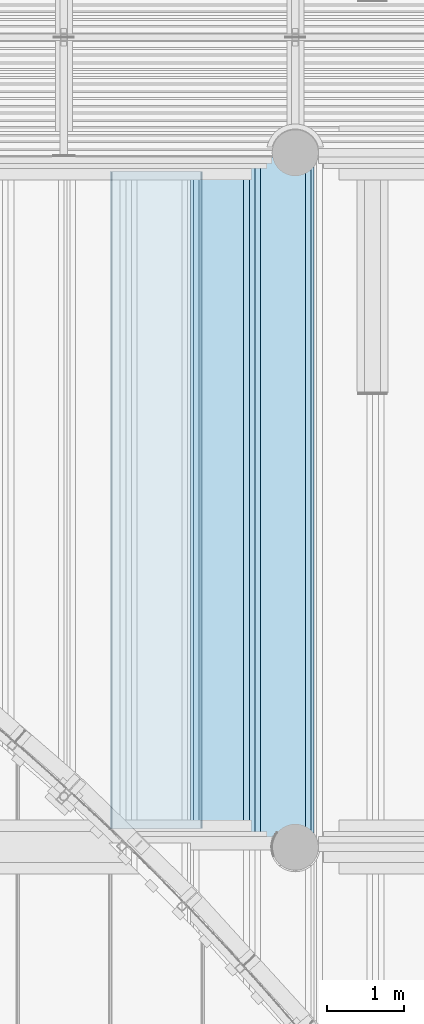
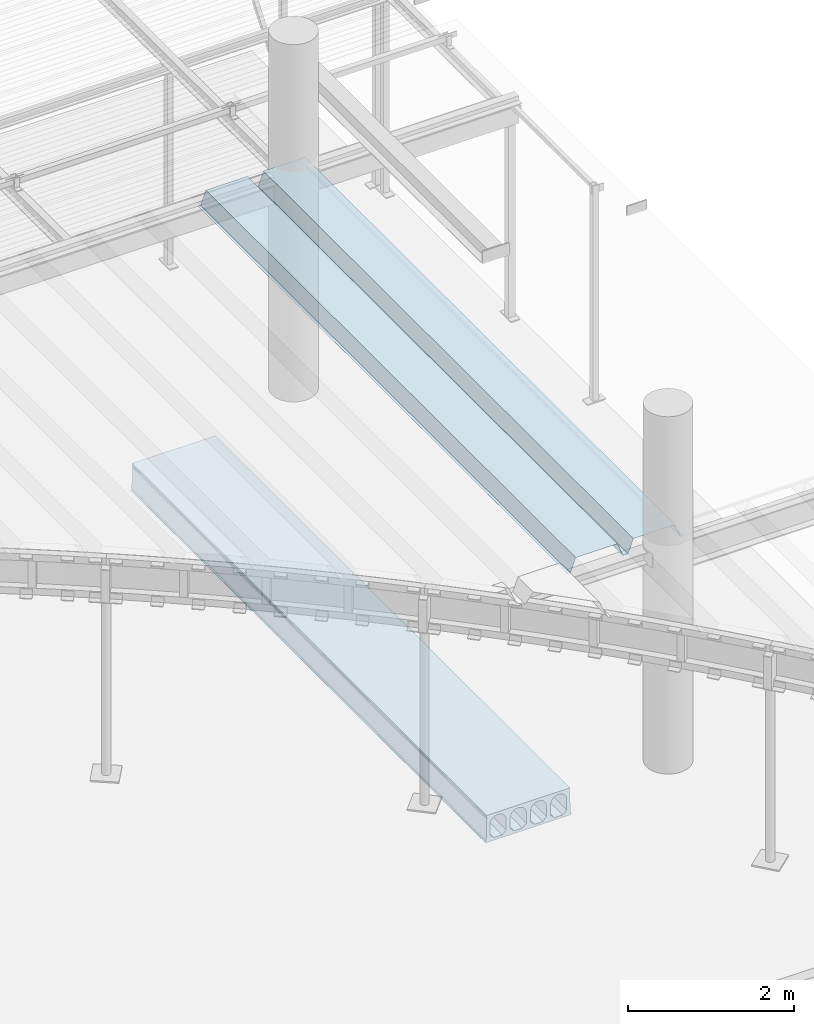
# One storey, part 66 of 98: 2 slabs.
"""IFC2X3 building model written with IfcOpenShell, lengths in millimetres."""

from ifc_helpers import new_model, entity, si_unit, converted_unit, derived_unit, direction, frame, origin_with_axes, place, context, subcontext, project, spatial, faceted_brep, material, type_object, element, save


model = new_model("IFC2X3")

# Units and contexts
model_context = context("Model", 3, precision=0.01, world=frame((0.0, 4.29681676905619e-09, 0.0)), true_north=direction((4.01073788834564e-13, 1.0)))
plan_context = context("Plan", 3, precision=0.01, world=frame((0.0, 4.29681676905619e-09, 0.0)), true_north=direction((4.01073788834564e-13, 1.0)))
body_context = subcontext(model_context, "Body", "Model", "MODEL_VIEW")
ifc_project = project(units=[converted_unit("PLANEANGLEUNIT", "DEGREE", entity("IfcPositiveLengthMeasure", 0.0174532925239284), si_unit("PLANEANGLEUNIT", "RADIAN"), dimensions=[0, 0, 0, 0, 0, 0, 0]), si_unit("AREAUNIT", "SQUARE_METRE"), si_unit("LENGTHUNIT", "METRE", prefix="MILLI"), si_unit("MASSUNIT", "GRAM", prefix="KILO"), si_unit("POWERUNIT", "WATT"), si_unit("PRESSUREUNIT", "PASCAL"), si_unit("FORCEUNIT", "NEWTON", prefix="KILO"), si_unit("ELECTRICCURRENTUNIT", "AMPERE"), si_unit("THERMODYNAMICTEMPERATUREUNIT", "DEGREE_CELSIUS"), si_unit("TIMEUNIT", "SECOND"), si_unit("VOLUMEUNIT", "CUBIC_METRE"), derived_unit("LINEARVELOCITYUNIT", [(si_unit("LENGTHUNIT", "METRE"), 1), (si_unit("TIMEUNIT", "SECOND"), -1)]), derived_unit("VOLUMETRICFLOWRATEUNIT", [(si_unit("VOLUMEUNIT", "CUBIC_METRE"), 1), (si_unit("TIMEUNIT", "SECOND"), -1)]), derived_unit("THERMALTRANSMITTANCEUNIT", [(si_unit("POWERUNIT", "WATT"), 1), (si_unit("THERMODYNAMICTEMPERATUREUNIT", "KELVIN"), -1), (si_unit("AREAUNIT", "SQUARE_METRE"), -1)])], contexts=[model_context, plan_context])

# Site, building, storey
site_placement = place(None, frame((0.0, -4.29681676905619e-09, 0.0), z_axis=(0.0, 0.0, 1.0), x_axis=(1.0, 0.0, 0.0)))
site = spatial("IfcSite", under=ifc_project, at=site_placement, Name="Gardermoen", CompositionType="ELEMENT")
building_placement = place(site_placement, frame((0.0, 4.29681676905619e-09, 0.0), z_axis=(0.0, 0.0, 1.0), x_axis=(1.0, 0.0, 0.0)))
building = spatial("IfcBuilding", under=site, at=building_placement, Name="TS", CompositionType="ELEMENT")
storey_placement = place(building_placement, origin_with_axes())
storey = spatial("IfcBuildingStorey", under=building, at=storey_placement, Name="D", CompositionType="ELEMENT", Elevation=0.0)

# Slabs
ifc_material_1 = material(Name="CONCRETE/C45/55")
slab_type_1 = type_object("IfcSlabType", Name="HD400", PredefinedType="NOTDEFINED")
slab_1_placement = place(storey_placement, frame((527199.999766, 405739.995625, 203600.0), z_axis=(0.0, 0.0, 1.0), x_axis=(0.0, 1.0, 0.0)))
element("IfcSlab", 1, at=slab_1_placement, inside=storey, type_object=slab_type_1, material=ifc_material_1, Name="HULLDEKKE", ObjectType="HD400", PredefinedType="FLOOR", context=body_context, shape_type="Brep", body=[
    faceted_brep([(0.0, 600.0, -190.0), (0.0, 600.0, -180.0), (8520.00875000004, 600.0, -180.0), (8520.00875000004, 600.0, -190.0), (0.0, 585.0, -170.0), (8520.00875000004, 585.0, -170.0), (0.0, 577.5, 145.0), (8520.00875000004, 577.5, 145.0), (0.0, 570.0, 160.0), (8520.00875000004, 570.0, 160.0), (0.0, 577.5, 175.0), (8520.00875000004, 577.5, 175.0), (0.0, 577.5, 200.0), (8520.00875000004, 577.5, 200.0), (0.0, -577.5, 200.0), (8520.00875000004, -577.5, 200.0), (0.0, -577.5, 175.0), (8520.00875000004, -577.5, 175.0), (0.0, -570.0, 160.0), (8520.00875000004, -570.0, 160.0), (0.0, -577.5, 145.0), (8520.00875000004, -577.5, 145.0), (0.0, -585.0, -170.0), (8520.00875000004, -585.0, -170.0), (0.0, -600.0, -180.0), (8520.00875000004, -600.0, -180.0), (0.0, -600.0, -190.0), (8520.00875000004, -600.0, -190.0), (0.0, -583.380004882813, -200.0), (8520.00875000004, -583.380004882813, -200.0), (0.0, 583.380004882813, -200.0), (8520.00875000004, 583.380004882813, -200.0), (0.0, -362.5, -160.0), (0.0, -477.5, -160.0), (8520.00875000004, -477.5, -160.0), (8520.00875000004, -362.5, -160.0), (0.0, -532.5, -105.0), (8520.00875000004, -532.5, -105.0), (0.0, -532.5, 47.5), (8520.00875000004, -532.5, 47.5), (0.0, -532.115755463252, 56.7901763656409), (8520.00875000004, -532.115755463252, 56.7901763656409), (0.0, -530.965646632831, 66.0168914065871), (8520.00875000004, -530.965646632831, 66.0168914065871), (0.0, -529.057529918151, 75.1171173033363), (8520.00875000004, -529.057529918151, 75.1171173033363), (0.0, -526.404439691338, 84.028690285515), (8520.00875000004, -526.404439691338, 84.028690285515), (0.0, -523.024499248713, 92.6907352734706), (8520.00875000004, -523.024499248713, 92.6907352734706), (0.0, -518.940797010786, 101.044081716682), (8520.00875000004, -518.940797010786, 101.044081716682), (0.0, -514.181228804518, 109.031667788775), (8520.00875000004, -514.181228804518, 109.031667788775), (0.0, -508.778307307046, 116.598930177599), (8520.00875000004, -508.778307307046, 116.598930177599), (0.0, -502.768939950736, 123.694176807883), (8520.00875000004, -502.768939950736, 123.694176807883), (0.0, -496.194176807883, 130.268939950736), (8520.00875000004, -496.194176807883, 130.268939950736), (0.0, -489.098930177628, 136.278307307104), (8520.00875000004, -489.098930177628, 136.278307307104), (0.0, -481.531667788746, 141.681228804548), (8520.00875000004, -481.531667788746, 141.681228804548), (0.0, -473.544081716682, 146.440797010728), (8520.00875000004, -473.544081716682, 146.440797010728), (0.0, -465.190735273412, 150.524499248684), (8520.00875000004, -465.190735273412, 150.524499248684), (0.0, -456.528690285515, 153.904439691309), (8520.00875000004, -456.528690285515, 153.904439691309), (0.0, -447.617117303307, 156.55752991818), (8520.00875000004, -447.617117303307, 156.55752991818), (0.0, -438.516891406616, 158.465646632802), (8520.00875000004, -438.516891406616, 158.465646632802), (0.0, -429.290176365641, 159.615755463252), (8520.00875000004, -429.290176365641, 159.615755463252), (0.0, -420.0, 160.0), (8520.00875000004, -420.0, 160.0), (0.0, -410.709823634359, 159.615755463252), (8520.00875000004, -410.709823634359, 159.615755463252), (0.0, -401.483108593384, 158.465646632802), (8520.00875000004, -401.483108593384, 158.465646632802), (0.0, -392.382882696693, 156.55752991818), (8520.00875000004, -392.382882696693, 156.55752991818), (0.0, -383.471309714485, 153.904439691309), (8520.00875000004, -383.471309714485, 153.904439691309), (0.0, -374.809264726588, 150.524499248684), (8520.00875000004, -374.809264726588, 150.524499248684), (0.0, -366.455918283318, 146.440797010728), (8520.00875000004, -366.455918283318, 146.440797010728), (0.0, -358.468332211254, 141.681228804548), (8520.00875000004, -358.468332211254, 141.681228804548), (0.0, -350.901069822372, 136.278307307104), (8520.00875000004, -350.901069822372, 136.278307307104), (0.0, -343.805823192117, 130.268939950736), (8520.00875000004, -343.805823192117, 130.268939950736), (0.0, -337.231060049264, 123.694176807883), (8520.00875000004, -337.231060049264, 123.694176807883), (0.0, -331.221692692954, 116.598930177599), (8520.00875000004, -331.221692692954, 116.598930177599), (0.0, -325.818771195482, 109.031667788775), (8520.00875000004, -325.818771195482, 109.031667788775), (0.0, -321.059202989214, 101.044081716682), (8520.00875000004, -321.059202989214, 101.044081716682), (0.0, -316.975500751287, 92.6907352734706), (8520.00875000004, -316.975500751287, 92.6907352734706), (0.0, -313.595560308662, 84.028690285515), (8520.00875000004, -313.595560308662, 84.028690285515), (0.0, -310.942470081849, 75.1171173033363), (8520.00875000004, -310.942470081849, 75.1171173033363), (0.0, -309.034353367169, 66.0168914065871), (8520.00875000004, -309.034353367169, 66.0168914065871), (0.0, -307.884244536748, 56.7901763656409), (8520.00875000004, -307.884244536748, 56.7901763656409), (0.0, -307.5, 47.5), (8520.00875000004, -307.5, 47.5), (0.0, -307.5, -105.0), (8520.00875000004, -307.5, -105.0), (0.0, -82.5, -160.0), (0.0, -197.5, -160.0), (8520.00875000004, -197.5, -160.0), (8520.00875000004, -82.5, -160.0), (0.0, -252.5, -105.0), (8520.00875000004, -252.5, -105.0), (0.0, -252.5, 47.5), (8520.00875000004, -252.5, 47.5), (0.0, -252.115755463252, 56.7901763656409), (8520.00875000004, -252.115755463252, 56.7901763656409), (0.0, -250.965646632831, 66.0168914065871), (8520.00875000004, -250.965646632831, 66.0168914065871), (0.0, -249.057529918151, 75.1171173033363), (8520.00875000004, -249.057529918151, 75.1171173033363), (0.0, -246.404439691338, 84.028690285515), (8520.00875000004, -246.404439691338, 84.028690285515), (0.0, -243.024499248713, 92.6907352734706), (8520.00875000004, -243.024499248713, 92.6907352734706), (0.0, -238.940797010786, 101.044081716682), (8520.00875000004, -238.940797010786, 101.044081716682), (0.0, -234.181228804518, 109.031667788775), (8520.00875000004, -234.181228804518, 109.031667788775), (0.0, -228.778307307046, 116.598930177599), (8520.00875000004, -228.778307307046, 116.598930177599), (0.0, -222.768939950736, 123.694176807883), (8520.00875000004, -222.768939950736, 123.694176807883), (0.0, -216.194176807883, 130.268939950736), (8520.00875000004, -216.194176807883, 130.268939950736), (0.0, -209.098930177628, 136.278307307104), (8520.00875000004, -209.098930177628, 136.278307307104), (0.0, -201.531667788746, 141.681228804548), (8520.00875000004, -201.531667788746, 141.681228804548), (0.0, -193.544081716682, 146.440797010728), (8520.00875000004, -193.544081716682, 146.440797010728), (0.0, -185.190735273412, 150.524499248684), (8520.00875000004, -185.190735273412, 150.524499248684), (0.0, -176.528690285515, 153.904439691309), (8520.00875000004, -176.528690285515, 153.904439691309), (0.0, -167.617117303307, 156.55752991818), (8520.00875000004, -167.617117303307, 156.55752991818), (0.0, -158.516891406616, 158.465646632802), (8520.00875000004, -158.516891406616, 158.465646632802), (0.0, -149.290176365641, 159.615755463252), (8520.00875000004, -149.290176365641, 159.615755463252), (0.0, -140.0, 160.0), (8520.00875000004, -140.0, 160.0), (0.0, -130.709823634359, 159.615755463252), (8520.00875000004, -130.709823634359, 159.615755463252), (0.0, -121.483108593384, 158.465646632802), (8520.00875000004, -121.483108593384, 158.465646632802), (0.0, -112.382882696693, 156.55752991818), (8520.00875000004, -112.382882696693, 156.55752991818), (0.0, -103.471309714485, 153.904439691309), (8520.00875000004, -103.471309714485, 153.904439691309), (0.0, -94.8092647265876, 150.524499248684), (8520.00875000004, -94.8092647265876, 150.524499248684), (0.0, -86.4559182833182, 146.440797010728), (8520.00875000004, -86.4559182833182, 146.440797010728), (0.0, -78.4683322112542, 141.681228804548), (8520.00875000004, -78.4683322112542, 141.681228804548), (0.0, -70.9010698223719, 136.278307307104), (8520.00875000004, -70.9010698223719, 136.278307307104), (0.0, -63.8058231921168, 130.268939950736), (8520.00875000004, -63.8058231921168, 130.268939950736), (0.0, -57.2310600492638, 123.694176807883), (8520.00875000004, -57.2310600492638, 123.694176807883), (0.0, -51.2216926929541, 116.598930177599), (8520.00875000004, -51.2216926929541, 116.598930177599), (0.0, -45.8187711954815, 109.031667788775), (8520.00875000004, -45.8187711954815, 109.031667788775), (0.0, -41.0592029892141, 101.044081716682), (8520.00875000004, -41.0592029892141, 101.044081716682), (0.0, -36.9755007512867, 92.6907352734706), (8520.00875000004, -36.9755007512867, 92.6907352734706), (0.0, -33.5955603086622, 84.028690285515), (8520.00875000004, -33.5955603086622, 84.028690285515), (0.0, -30.942470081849, 75.1171173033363), (8520.00875000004, -30.942470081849, 75.1171173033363), (0.0, -29.0343533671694, 66.0168914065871), (8520.00875000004, -29.0343533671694, 66.0168914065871), (0.0, -27.8842445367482, 56.7901763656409), (8520.00875000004, -27.8842445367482, 56.7901763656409), (0.0, -27.5, 47.5), (8520.00875000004, -27.5, 47.5), (0.0, -27.5, -105.0), (8520.00875000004, -27.5, -105.0), (0.0, 197.5, -160.0), (0.0, 82.5, -160.0), (8520.00875000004, 82.5, -160.0), (8520.00875000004, 197.5, -160.0), (0.0, 27.5, -105.0), (8520.00875000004, 27.5, -105.0), (0.0, 27.5, 47.5), (8520.00875000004, 27.5, 47.5), (0.0, 27.8842445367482, 56.7901763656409), (8520.00875000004, 27.8842445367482, 56.7901763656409), (0.0, 29.0343533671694, 66.0168914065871), (8520.00875000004, 29.0343533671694, 66.0168914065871), (0.0, 30.942470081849, 75.1171173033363), (8520.00875000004, 30.942470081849, 75.1171173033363), (0.0, 33.5955603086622, 84.028690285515), (8520.00875000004, 33.5955603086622, 84.028690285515), (0.0, 36.9755007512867, 92.6907352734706), (8520.00875000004, 36.9755007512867, 92.6907352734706), (0.0, 41.0592029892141, 101.044081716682), (8520.00875000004, 41.0592029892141, 101.044081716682), (0.0, 45.8187711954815, 109.031667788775), (8520.00875000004, 45.8187711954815, 109.031667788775), (0.0, 51.2216926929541, 116.598930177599), (8520.00875000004, 51.2216926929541, 116.598930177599), (0.0, 57.2310600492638, 123.694176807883), (8520.00875000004, 57.2310600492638, 123.694176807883), (0.0, 63.8058231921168, 130.268939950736), (8520.00875000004, 63.8058231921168, 130.268939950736), (0.0, 70.9010698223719, 136.278307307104), (8520.00875000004, 70.9010698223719, 136.278307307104), (0.0, 78.4683322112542, 141.681228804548), (8520.00875000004, 78.4683322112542, 141.681228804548), (0.0, 86.4559182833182, 146.440797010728), (8520.00875000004, 86.4559182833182, 146.440797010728), (0.0, 94.8092647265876, 150.524499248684), (8520.00875000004, 94.8092647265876, 150.524499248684), (0.0, 103.471309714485, 153.904439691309), (8520.00875000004, 103.471309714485, 153.904439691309), (0.0, 112.382882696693, 156.55752991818), (8520.00875000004, 112.382882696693, 156.55752991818), (0.0, 121.483108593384, 158.465646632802), (8520.00875000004, 121.483108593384, 158.465646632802), (0.0, 130.709823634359, 159.615755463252), (8520.00875000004, 130.709823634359, 159.615755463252), (0.0, 140.0, 160.0), (8520.00875000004, 140.0, 160.0), (0.0, 149.290176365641, 159.615755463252), (8520.00875000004, 149.290176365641, 159.615755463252), (0.0, 158.516891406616, 158.465646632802), (8520.00875000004, 158.516891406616, 158.465646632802), (0.0, 167.617117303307, 156.55752991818), (8520.00875000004, 167.617117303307, 156.55752991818), (0.0, 176.528690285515, 153.904439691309), (8520.00875000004, 176.528690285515, 153.904439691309), (0.0, 185.190735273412, 150.524499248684), (8520.00875000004, 185.190735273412, 150.524499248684), (0.0, 193.544081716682, 146.440797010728), (8520.00875000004, 193.544081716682, 146.440797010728), (0.0, 201.531667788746, 141.681228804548), (8520.00875000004, 201.531667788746, 141.681228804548), (0.0, 209.098930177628, 136.278307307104), (8520.00875000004, 209.098930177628, 136.278307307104), (0.0, 216.194176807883, 130.268939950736), (8520.00875000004, 216.194176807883, 130.268939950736), (0.0, 222.768939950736, 123.694176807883), (8520.00875000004, 222.768939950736, 123.694176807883), (0.0, 228.778307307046, 116.598930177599), (8520.00875000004, 228.778307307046, 116.598930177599), (0.0, 234.181228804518, 109.031667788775), (8520.00875000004, 234.181228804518, 109.031667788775), (0.0, 238.940797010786, 101.044081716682), (8520.00875000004, 238.940797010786, 101.044081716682), (0.0, 243.024499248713, 92.6907352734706), (8520.00875000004, 243.024499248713, 92.6907352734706), (0.0, 246.404439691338, 84.028690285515), (8520.00875000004, 246.404439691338, 84.028690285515), (0.0, 249.057529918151, 75.1171173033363), (8520.00875000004, 249.057529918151, 75.1171173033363), (0.0, 250.965646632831, 66.0168914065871), (8520.00875000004, 250.965646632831, 66.0168914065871), (0.0, 252.115755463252, 56.7901763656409), (8520.00875000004, 252.115755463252, 56.7901763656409), (0.0, 252.5, 47.5), (8520.00875000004, 252.5, 47.5), (0.0, 252.5, -105.0), (8520.00875000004, 252.5, -105.0), (0.0, 477.5, -160.0), (0.0, 362.5, -160.0), (8520.00875000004, 362.5, -160.0), (8520.00875000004, 477.5, -160.0), (0.0, 307.5, -105.0), (8520.00875000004, 307.5, -105.0), (0.0, 307.5, 47.5), (8520.00875000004, 307.5, 47.5), (0.0, 307.884244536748, 56.7901763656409), (8520.00875000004, 307.884244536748, 56.7901763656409), (0.0, 309.034353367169, 66.0168914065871), (8520.00875000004, 309.034353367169, 66.0168914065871), (0.0, 310.942470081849, 75.1171173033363), (8520.00875000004, 310.942470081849, 75.1171173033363), (0.0, 313.595560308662, 84.028690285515), (8520.00875000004, 313.595560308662, 84.028690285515), (0.0, 316.975500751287, 92.6907352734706), (8520.00875000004, 316.975500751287, 92.6907352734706), (0.0, 321.059202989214, 101.044081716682), (8520.00875000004, 321.059202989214, 101.044081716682), (0.0, 325.818771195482, 109.031667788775), (8520.00875000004, 325.818771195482, 109.031667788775), (0.0, 331.221692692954, 116.598930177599), (8520.00875000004, 331.221692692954, 116.598930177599), (0.0, 337.231060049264, 123.694176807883), (8520.00875000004, 337.231060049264, 123.694176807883), (0.0, 343.805823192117, 130.268939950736), (8520.00875000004, 343.805823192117, 130.268939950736), (0.0, 350.901069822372, 136.278307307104), (8520.00875000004, 350.901069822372, 136.278307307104), (0.0, 358.468332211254, 141.681228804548), (8520.00875000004, 358.468332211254, 141.681228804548), (0.0, 366.455918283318, 146.440797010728), (8520.00875000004, 366.455918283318, 146.440797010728), (0.0, 374.809264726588, 150.524499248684), (8520.00875000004, 374.809264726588, 150.524499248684), (0.0, 383.471309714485, 153.904439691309), (8520.00875000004, 383.471309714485, 153.904439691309), (0.0, 392.382882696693, 156.55752991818), (8520.00875000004, 392.382882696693, 156.55752991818), (0.0, 401.483108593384, 158.465646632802), (8520.00875000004, 401.483108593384, 158.465646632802), (0.0, 410.709823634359, 159.615755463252), (8520.00875000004, 410.709823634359, 159.615755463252), (0.0, 420.0, 160.0), (8520.00875000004, 420.0, 160.0), (0.0, 429.290176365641, 159.615755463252), (8520.00875000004, 429.290176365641, 159.615755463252), (0.0, 438.516891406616, 158.465646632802), (8520.00875000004, 438.516891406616, 158.465646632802), (0.0, 447.617117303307, 156.55752991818), (8520.00875000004, 447.617117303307, 156.55752991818), (0.0, 456.528690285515, 153.904439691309), (8520.00875000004, 456.528690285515, 153.904439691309), (0.0, 465.190735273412, 150.524499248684), (8520.00875000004, 465.190735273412, 150.524499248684), (0.0, 473.544081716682, 146.440797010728), (8520.00875000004, 473.544081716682, 146.440797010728), (0.0, 481.531667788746, 141.681228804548), (8520.00875000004, 481.531667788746, 141.681228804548), (0.0, 489.098930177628, 136.278307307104), (8520.00875000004, 489.098930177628, 136.278307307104), (0.0, 496.194176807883, 130.268939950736), (8520.00875000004, 496.194176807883, 130.268939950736), (0.0, 502.768939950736, 123.694176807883), (8520.00875000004, 502.768939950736, 123.694176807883), (0.0, 508.778307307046, 116.598930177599), (8520.00875000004, 508.778307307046, 116.598930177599), (0.0, 514.181228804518, 109.031667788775), (8520.00875000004, 514.181228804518, 109.031667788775), (0.0, 518.940797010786, 101.044081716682), (8520.00875000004, 518.940797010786, 101.044081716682), (0.0, 523.024499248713, 92.6907352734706), (8520.00875000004, 523.024499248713, 92.6907352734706), (0.0, 526.404439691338, 84.028690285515), (8520.00875000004, 526.404439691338, 84.028690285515), (0.0, 529.057529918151, 75.1171173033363), (8520.00875000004, 529.057529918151, 75.1171173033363), (0.0, 530.965646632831, 66.0168914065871), (8520.00875000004, 530.965646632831, 66.0168914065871), (0.0, 532.115755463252, 56.7901763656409), (8520.00875000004, 532.115755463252, 56.7901763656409), (0.0, 532.5, 47.5), (8520.00875000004, 532.5, 47.5), (0.0, 532.5, -105.0), (8520.00875000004, 532.5, -105.0)], [[[0, 1, 2, 3]], [[1, 4, 5, 2]], [[4, 6, 7, 5]], [[6, 8, 9, 7]], [[8, 10, 11, 9]], [[10, 12, 13, 11]], [[12, 14, 15, 13]], [[14, 16, 17, 15]], [[16, 18, 19, 17]], [[18, 20, 21, 19]], [[20, 22, 23, 21]], [[22, 24, 25, 23]], [[24, 26, 27, 25]], [[26, 28, 29, 27]], [[28, 30, 31, 29]], [[30, 0, 3, 31]], [[32, 33, 34, 35]], [[33, 36, 37, 34]], [[36, 38, 39, 37]], [[38, 40, 41, 39]], [[40, 42, 43, 41]], [[42, 44, 45, 43]], [[44, 46, 47, 45]], [[46, 48, 49, 47]], [[48, 50, 51, 49]], [[50, 52, 53, 51]], [[52, 54, 55, 53]], [[54, 56, 57, 55]], [[56, 58, 59, 57]], [[58, 60, 61, 59]], [[60, 62, 63, 61]], [[62, 64, 65, 63]], [[64, 66, 67, 65]], [[66, 68, 69, 67]], [[68, 70, 71, 69]], [[70, 72, 73, 71]], [[72, 74, 75, 73]], [[74, 76, 77, 75]], [[76, 78, 79, 77]], [[78, 80, 81, 79]], [[80, 82, 83, 81]], [[82, 84, 85, 83]], [[84, 86, 87, 85]], [[86, 88, 89, 87]], [[88, 90, 91, 89]], [[90, 92, 93, 91]], [[92, 94, 95, 93]], [[94, 96, 97, 95]], [[96, 98, 99, 97]], [[98, 100, 101, 99]], [[100, 102, 103, 101]], [[102, 104, 105, 103]], [[104, 106, 107, 105]], [[106, 108, 109, 107]], [[108, 110, 111, 109]], [[110, 112, 113, 111]], [[112, 114, 115, 113]], [[114, 116, 117, 115]], [[116, 32, 35, 117]], [[118, 119, 120, 121]], [[119, 122, 123, 120]], [[122, 124, 125, 123]], [[124, 126, 127, 125]], [[126, 128, 129, 127]], [[128, 130, 131, 129]], [[130, 132, 133, 131]], [[132, 134, 135, 133]], [[134, 136, 137, 135]], [[136, 138, 139, 137]], [[138, 140, 141, 139]], [[140, 142, 143, 141]], [[142, 144, 145, 143]], [[144, 146, 147, 145]], [[146, 148, 149, 147]], [[148, 150, 151, 149]], [[150, 152, 153, 151]], [[152, 154, 155, 153]], [[154, 156, 157, 155]], [[156, 158, 159, 157]], [[158, 160, 161, 159]], [[160, 162, 163, 161]], [[162, 164, 165, 163]], [[164, 166, 167, 165]], [[166, 168, 169, 167]], [[168, 170, 171, 169]], [[170, 172, 173, 171]], [[172, 174, 175, 173]], [[174, 176, 177, 175]], [[176, 178, 179, 177]], [[178, 180, 181, 179]], [[180, 182, 183, 181]], [[182, 184, 185, 183]], [[184, 186, 187, 185]], [[186, 188, 189, 187]], [[188, 190, 191, 189]], [[190, 192, 193, 191]], [[192, 194, 195, 193]], [[194, 196, 197, 195]], [[196, 198, 199, 197]], [[198, 200, 201, 199]], [[200, 202, 203, 201]], [[202, 118, 121, 203]], [[204, 205, 206, 207]], [[205, 208, 209, 206]], [[208, 210, 211, 209]], [[210, 212, 213, 211]], [[212, 214, 215, 213]], [[214, 216, 217, 215]], [[216, 218, 219, 217]], [[218, 220, 221, 219]], [[220, 222, 223, 221]], [[222, 224, 225, 223]], [[224, 226, 227, 225]], [[226, 228, 229, 227]], [[228, 230, 231, 229]], [[230, 232, 233, 231]], [[232, 234, 235, 233]], [[234, 236, 237, 235]], [[236, 238, 239, 237]], [[238, 240, 241, 239]], [[240, 242, 243, 241]], [[242, 244, 245, 243]], [[244, 246, 247, 245]], [[246, 248, 249, 247]], [[248, 250, 251, 249]], [[250, 252, 253, 251]], [[252, 254, 255, 253]], [[254, 256, 257, 255]], [[256, 258, 259, 257]], [[258, 260, 261, 259]], [[260, 262, 263, 261]], [[262, 264, 265, 263]], [[264, 266, 267, 265]], [[266, 268, 269, 267]], [[268, 270, 271, 269]], [[270, 272, 273, 271]], [[272, 274, 275, 273]], [[274, 276, 277, 275]], [[276, 278, 279, 277]], [[278, 280, 281, 279]], [[280, 282, 283, 281]], [[282, 284, 285, 283]], [[284, 286, 287, 285]], [[286, 288, 289, 287]], [[288, 204, 207, 289]], [[290, 291, 292, 293]], [[291, 294, 295, 292]], [[294, 296, 297, 295]], [[296, 298, 299, 297]], [[298, 300, 301, 299]], [[300, 302, 303, 301]], [[302, 304, 305, 303]], [[304, 306, 307, 305]], [[306, 308, 309, 307]], [[308, 310, 311, 309]], [[310, 312, 313, 311]], [[312, 314, 315, 313]], [[314, 316, 317, 315]], [[316, 318, 319, 317]], [[318, 320, 321, 319]], [[320, 322, 323, 321]], [[322, 324, 325, 323]], [[324, 326, 327, 325]], [[326, 328, 329, 327]], [[328, 330, 331, 329]], [[330, 332, 333, 331]], [[332, 334, 335, 333]], [[334, 336, 337, 335]], [[336, 338, 339, 337]], [[338, 340, 341, 339]], [[340, 342, 343, 341]], [[342, 344, 345, 343]], [[344, 346, 347, 345]], [[346, 348, 349, 347]], [[348, 350, 351, 349]], [[350, 352, 353, 351]], [[352, 354, 355, 353]], [[354, 356, 357, 355]], [[356, 358, 359, 357]], [[358, 360, 361, 359]], [[360, 362, 363, 361]], [[362, 364, 365, 363]], [[364, 366, 367, 365]], [[366, 368, 369, 367]], [[368, 370, 371, 369]], [[370, 372, 373, 371]], [[372, 374, 375, 373]], [[374, 290, 293, 375]], [[5, 7, 9, 11, 13, 15, 17, 19, 21, 23, 25, 27, 29, 31, 3, 2], [295, 297, 299, 301, 303, 305, 307, 309, 311, 313, 315, 317, 319, 321, 323, 325, 327, 329, 331, 333, 335, 337, 339, 341, 343, 345, 347, 349, 351, 353, 355, 357, 359, 361, 363, 365, 367, 369, 371, 373, 375, 293, 292], [209, 211, 213, 215, 217, 219, 221, 223, 225, 227, 229, 231, 233, 235, 237, 239, 241, 243, 245, 247, 249, 251, 253, 255, 257, 259, 261, 263, 265, 267, 269, 271, 273, 275, 277, 279, 281, 283, 285, 287, 289, 207, 206], [123, 125, 127, 129, 131, 133, 135, 137, 139, 141, 143, 145, 147, 149, 151, 153, 155, 157, 159, 161, 163, 165, 167, 169, 171, 173, 175, 177, 179, 181, 183, 185, 187, 189, 191, 193, 195, 197, 199, 201, 203, 121, 120], [37, 39, 41, 43, 45, 47, 49, 51, 53, 55, 57, 59, 61, 63, 65, 67, 69, 71, 73, 75, 77, 79, 81, 83, 85, 87, 89, 91, 93, 95, 97, 99, 101, 103, 105, 107, 109, 111, 113, 115, 117, 35, 34]], [[30, 28, 26, 24, 22, 20, 18, 16, 14, 12, 10, 8, 6, 4, 1, 0], [374, 372, 370, 368, 366, 364, 362, 360, 358, 356, 354, 352, 350, 348, 346, 344, 342, 340, 338, 336, 334, 332, 330, 328, 326, 324, 322, 320, 318, 316, 314, 312, 310, 308, 306, 304, 302, 300, 298, 296, 294, 291, 290], [288, 286, 284, 282, 280, 278, 276, 274, 272, 270, 268, 266, 264, 262, 260, 258, 256, 254, 252, 250, 248, 246, 244, 242, 240, 238, 236, 234, 232, 230, 228, 226, 224, 222, 220, 218, 216, 214, 212, 210, 208, 205, 204], [202, 200, 198, 196, 194, 192, 190, 188, 186, 184, 182, 180, 178, 176, 174, 172, 170, 168, 166, 164, 162, 160, 158, 156, 154, 152, 150, 148, 146, 144, 142, 140, 138, 136, 134, 132, 130, 128, 126, 124, 122, 119, 118], [116, 114, 112, 110, 108, 106, 104, 102, 100, 98, 96, 94, 92, 90, 88, 86, 84, 82, 80, 78, 76, 74, 72, 70, 68, 66, 64, 62, 60, 58, 56, 54, 52, 50, 48, 46, 44, 42, 40, 38, 36, 33, 32]]]),
])
ifc_material_2 = material(Name="STEEL/S355")
slab_type_2 = type_object("IfcSlabType", Name="PLANNJA200", PredefinedType="NOTDEFINED")
slab_2_placement = place(storey_placement, frame((528440.35, 405554.98, 207199.0), z_axis=(0.0, 0.0, 1.0), x_axis=(0.0, 1.0, 0.0)))
element("IfcSlab", 2, at=slab_2_placement, inside=storey, type_object=slab_type_2, material=ifc_material_2, Name="STÅLTAK", ObjectType="PLANNJA200", PredefinedType="FLOOR", context=body_context, shape_type="Brep", body=[
    faceted_brep([(0.0, 800.0, -98.5), (0.0, 763.196472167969, -98.5), (8889.99999999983, 763.196472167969, -98.5), (8889.99999999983, 800.0, -98.5), (0.0, 690.0, 99.5), (8889.99999999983, 690.0, 99.5), (0.0, 110.0, 99.5), (8889.99999999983, 110.0, 99.5), (0.0, 36.8035354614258, -98.5), (8889.99999999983, 36.8035354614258, -98.5), (0.0, -36.8035354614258, -98.5), (8889.99999999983, -36.8035354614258, -98.5), (0.0, -110.0, 99.5), (8889.99999999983, -110.0, 99.5), (0.0, -690.0, 99.5), (8889.99999999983, -690.0, 99.5), (0.0, -763.196472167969, -98.5), (8889.99999999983, -763.196472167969, -98.5), (0.0, -800.0, -98.5), (8889.99999999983, -800.0, -98.5), (0.0, -800.0, -99.5), (8889.99999999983, -800.0, -99.5), (0.0, -762.5, -99.5), (8889.99999999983, -762.5, -99.5), (0.0, -689.303527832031, 98.5), (8889.99999999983, -689.303527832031, 98.5), (0.0, -110.696464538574, 98.5), (8889.99999999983, -110.696464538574, 98.5), (0.0, -37.5, -99.5), (8889.99999999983, -37.5, -99.5), (0.0, 37.5, -99.5), (8889.99999999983, 37.5, -99.5), (0.0, 110.696464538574, 98.5), (8889.99999999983, 110.696464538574, 98.5), (0.0, 689.303527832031, 98.5), (8889.99999999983, 689.303527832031, 98.5), (0.0, 762.5, -99.5), (8889.99999999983, 762.5, -99.5), (0.0, 800.0, -99.5), (8889.99999999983, 800.0, -99.5)], [[[0, 1, 2, 3]], [[1, 4, 5, 2]], [[4, 6, 7, 5]], [[6, 8, 9, 7]], [[8, 10, 11, 9]], [[10, 12, 13, 11]], [[12, 14, 15, 13]], [[14, 16, 17, 15]], [[16, 18, 19, 17]], [[18, 20, 21, 19]], [[20, 22, 23, 21]], [[22, 24, 25, 23]], [[24, 26, 27, 25]], [[26, 28, 29, 27]], [[28, 30, 31, 29]], [[30, 32, 33, 31]], [[32, 34, 35, 33]], [[34, 36, 37, 35]], [[36, 38, 39, 37]], [[38, 0, 3, 39]], [[5, 7, 9, 11, 13, 15, 17, 19, 21, 23, 25, 27, 29, 31, 33, 35, 37, 39, 3, 2]], [[38, 36, 34, 32, 30, 28, 26, 24, 22, 20, 18, 16, 14, 12, 10, 8, 6, 4, 1, 0]]]),
])

save(model, "model.ifc")
